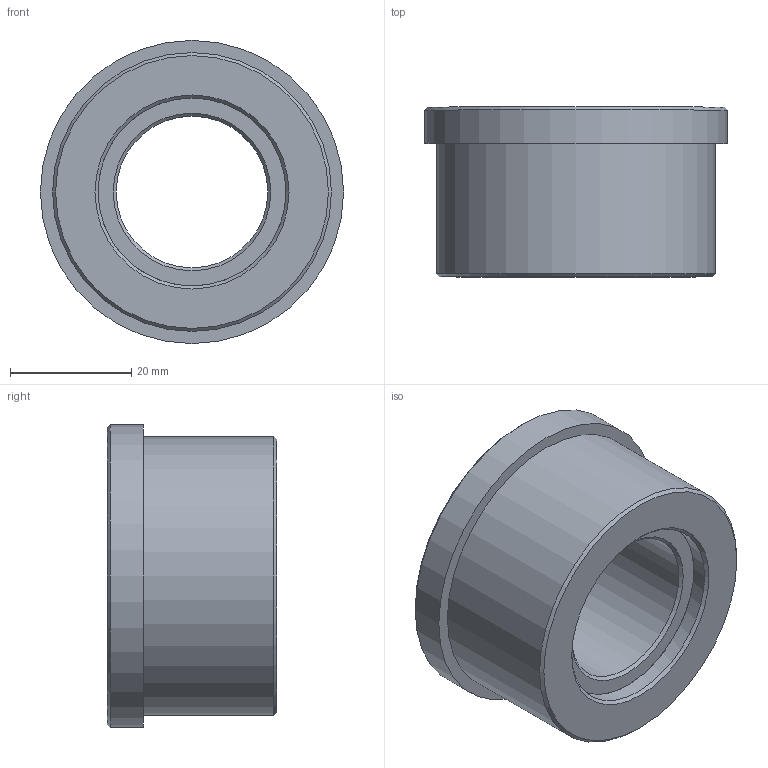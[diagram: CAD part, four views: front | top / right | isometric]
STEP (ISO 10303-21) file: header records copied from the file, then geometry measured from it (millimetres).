
FILE_DESCRIPTION(('STEP AP214'),'1');
FILE_NAME('C:/Projets/Serie 10.xx.xx/10.10.02.step','2011-11-10T15:41:44',(' '),(' '),'Spatial InterOp 3D',' ',' ');
FILE_SCHEMA(('automotive_design'));
Length unit declared in the file: metre
Products named in the file (3): rotule 02; boitier 02 ; 1
Bounding box: 50 x 28 x 50 mm (x, y, z)
Volume: 31526.2 mm3; surface area: 14244.3 mm2
Topology: 2 solids, 2 shells, 46 faces, 112 edges, 71 vertices
Faces by surface type: cylinder 16, plane 15, cone 13, sphere 2
Full cylindrical faces by diameter (mm): 25 x1, 31 x1, 46 x1, 50 x1
Entity records: 1788 total; most frequent: CARTESIAN_POINT 291, DIRECTION 231, ORIENTED_EDGE 178, AXIS2_PLACEMENT_3D 95, EDGE_CURVE 89, EDGE_LOOP 62, VERTEX_POINT 59, STYLED_ITEM 56
